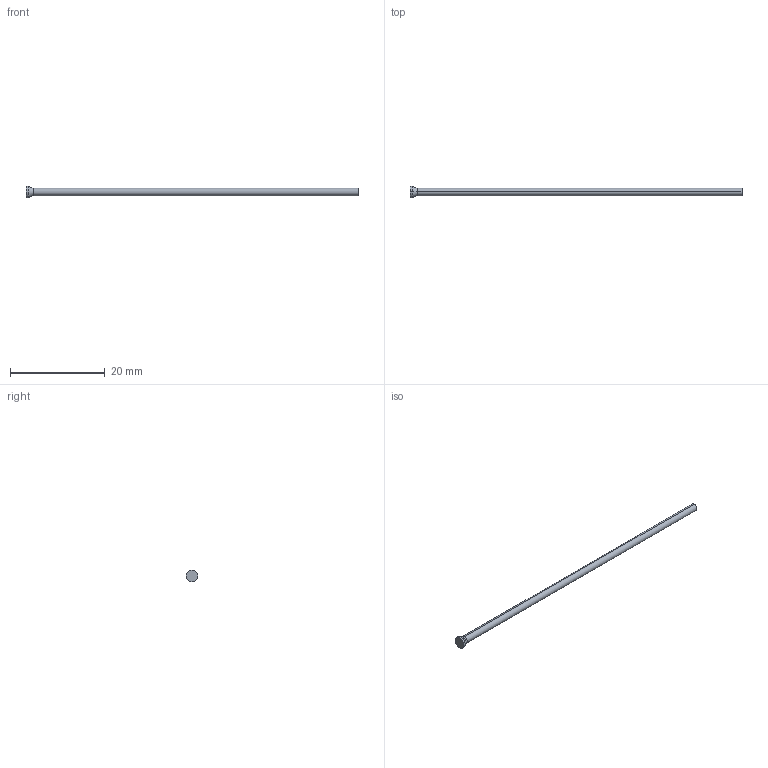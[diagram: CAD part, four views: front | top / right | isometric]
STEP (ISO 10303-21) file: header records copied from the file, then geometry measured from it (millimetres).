
FILE_DESCRIPTION (( 'STEP AP214' ), '1' );
FILE_NAME ('D-1,6x70.STEP', '2020-06-08T09:37:01', ( 'August' ), ( '' ), 'SwSTEP 2.0', 'SolidWorks 2018', '' );
FILE_SCHEMA (( 'AUTOMOTIVE_DESIGN' ));
Length unit declared in the file: millimetre
Products named in the file (1): D-1,6x70
Bounding box: 70 x 2.5 x 2.5 mm (x, y, z)
Volume: 143.3 mm3; surface area: 362 mm2
Topology: 1 solids, 1 shells, 10 faces, 18 edges, 10 vertices
Faces by surface type: cylinder 4, torus 2, cone 2, plane 2
Entity records: 280 total; most frequent: DIRECTION 52, CARTESIAN_POINT 39, ORIENTED_EDGE 36, AXIS2_PLACEMENT_3D 23, EDGE_CURVE 18, CIRCLE 12, EDGE_LOOP 10, VERTEX_POINT 10
